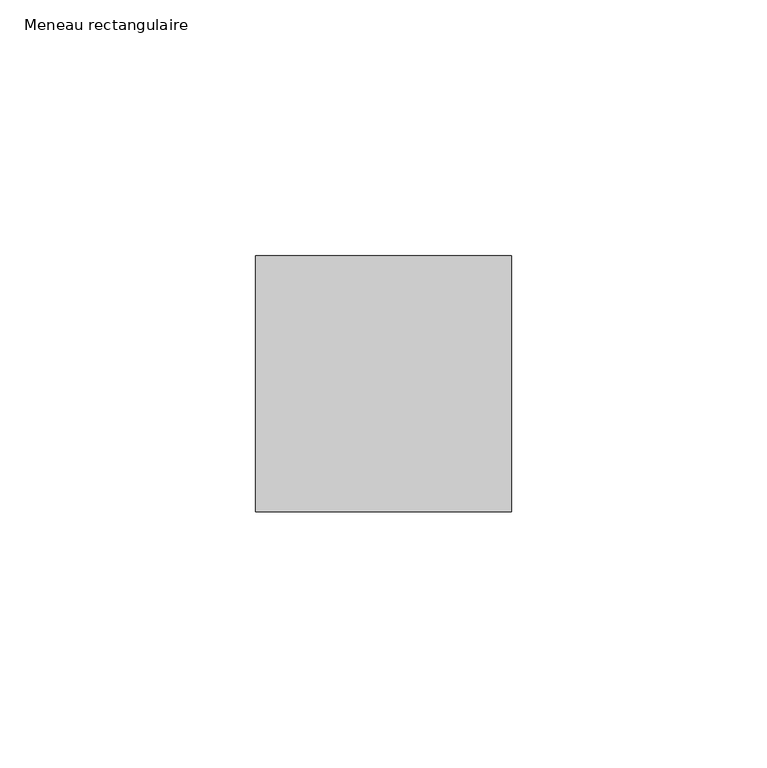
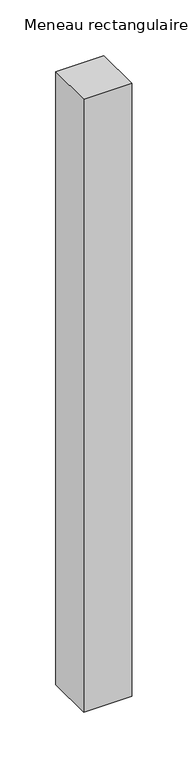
"""IFC4 building model written with IfcOpenShell, lengths in millimetres: member geometry, Meneau rectangulaire : 5x5cm aluminium laqué gris foncé."""

from ifc_helpers import new_model, si_unit, frame, origin, place, context, project, spatial, polyline, outline, extrude, source, transform, mapped, element, save


def meneau_rectangulaire_44a0aefb(model_context):
    return source(origin(), model_context, "Body", "SweptSolid", [
        extrude(outline(polyline([(25.0, 25.0), (25.0, -25.0), (-25.0, -25.0), (-25.0, 25.0), (25.0, 25.0)])), frame((0.0, 0.0, -671.2233546), z_axis=(0.0, 0.0, 1.0), x_axis=(1.0, 0.0, 0.0)), (0.0, 0.0, 1.0), 671.2233546),
    ])


if __name__ == "__main__":
    model = new_model("IFC4")
    model_context = context("Model", 3, world=origin())
    ifc_project = project(units=[si_unit("LENGTHUNIT", "METRE", prefix="MILLI")], contexts=[model_context])
    site = spatial("IfcSite", under=ifc_project)
    building = spatial("IfcBuilding", under=site)
    placement = place(None, origin())
    meneau_rectangulaire_shape = meneau_rectangulaire_44a0aefb(model_context)
    element("IfcMember", 1, ObjectType="Meneau rectangulaire : 5x5cm aluminium laqué gris foncé", at=placement, inside=building, context=model_context, shape_type="MappedRepresentation", body=[
        mapped(meneau_rectangulaire_shape, transform((0.0, 0.0, 0.0), x_axis=(1.0, 0.0, 0.0), y_axis=(0.0, 1.0, 0.0), z_axis=(0.0, 0.0, 1.0))),
    ])
    save(model, "model.ifc")
